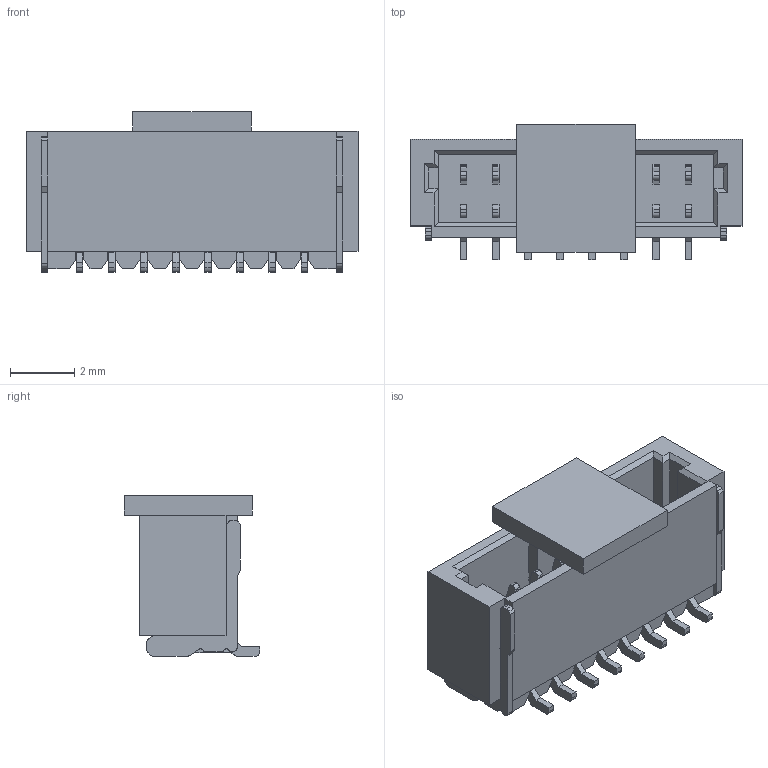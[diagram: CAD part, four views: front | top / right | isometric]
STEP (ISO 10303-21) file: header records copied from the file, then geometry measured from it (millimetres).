
FILE_DESCRIPTION (( 'STEP AP203' ), '1' );
FILE_NAME ('GT-A1002WVS-108SBT01.STEP', '2024-07-15T01:17:52', ( '' ), ( '' ), 'SwSTEP 2.0', 'SolidWorks 2020', '' );
FILE_SCHEMA (( 'CONFIG_CONTROL_DESIGN' ));
Length unit declared in the file: millimetre
Products named in the file (6): GT-A1002WVS-108SBT01.stp; 5.stp; GT-A1002WVS-108SBT01; LI.stp; 1010.stp; A1001.stp
Assembly tree (25 placements, depth 3):
  GT-A1002WVS-108SBT01
    GT-A1002WVS-108SBT01.stp
      A1001.stp
      LI.stp  x20
      5.stp  x2
      1010.stp
Bounding box: 10.35 x 4.23 x 5 mm (x, y, z)
Volume: 92.4 mm3; surface area: 519.4 mm2
Topology: 24 solids, 24 shells, 1578 faces, 4488 edges, 2988 vertices
Faces by surface type: plane 1025, cylinder 482, bspline 71
Entity records: 23171 total; most frequent: CARTESIAN_POINT 7308, ORIENTED_EDGE 3234, DIRECTION 2679, EDGE_CURVE 1617, VECTOR 1349, LINE 1349, VERTEX_POINT 1074, AXIS2_PLACEMENT_3D 665
